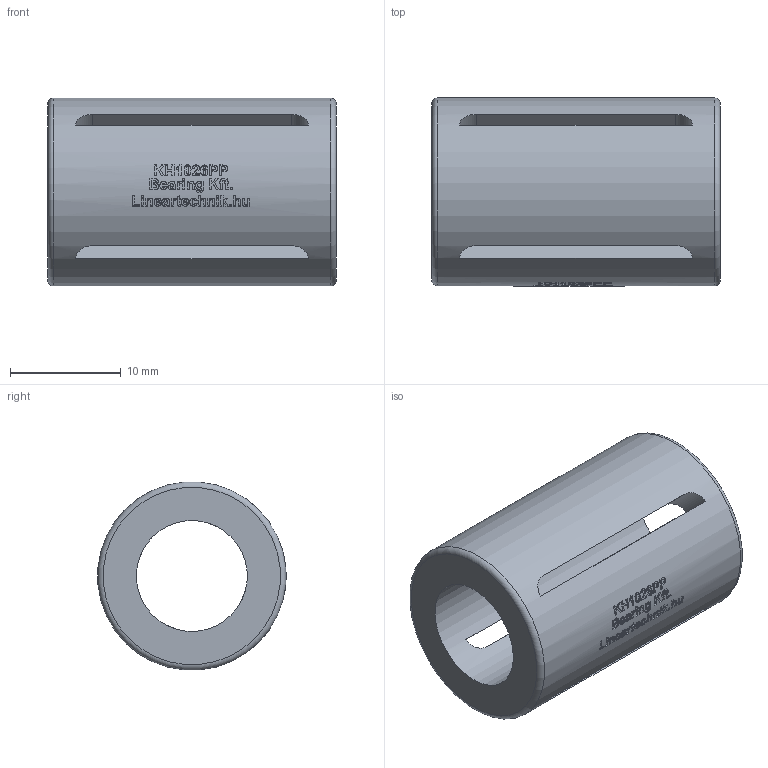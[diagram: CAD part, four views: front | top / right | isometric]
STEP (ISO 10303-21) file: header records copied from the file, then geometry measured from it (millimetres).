
FILE_DESCRIPTION(/* description */ (''),/* implementation_level */ '2;1');
FILE_NAME(/* name */ 'KH1026PP',/* time_stamp */ '2019-07-11T11:31:08+02:00',/* author */ ('VĂ©gh MĂˇtĂ©'),/* organization */ ('Bearing Kft'),/* preprocessor_version */ 'ST-DEVELOPER v16.7',/* originating_system */ 'DEX',/* authorisation */ $);
FILE_SCHEMA (('AUTOMOTIVE_DESIGN {1 0 10303 214 3 1 1}'));
Length unit declared in the file: millimetre
Products named in the file (1): KH1026PP
Bounding box: 26 x 16.97 x 16.94 mm (x, y, z)
Volume: 3421.5 mm3; surface area: 2865 mm2
Topology: 1 solids, 1 shells, 333 faces, 843 edges, 560 vertices
Faces by surface type: plane 173, bspline 98, cylinder 60, torus 2
Full cylindrical faces by diameter (mm): 10 x1, 17 x1
Entity records: 14484 total; most frequent: CARTESIAN_POINT 6986, ORIENTED_EDGE 1666, DIRECTION 1249, EDGE_CURVE 833, VERTEX_POINT 560, LINE 461, VECTOR 461, EDGE_LOOP 401
